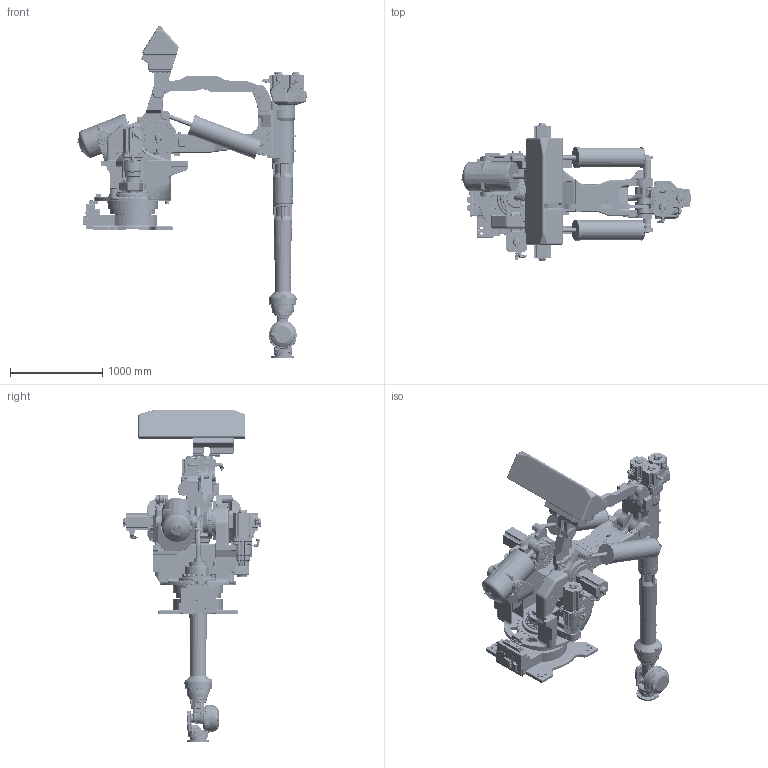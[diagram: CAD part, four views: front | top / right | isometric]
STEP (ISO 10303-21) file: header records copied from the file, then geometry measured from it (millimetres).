
FILE_DESCRIPTION((''),'2;1');
FILE_NAME('000_GP400R_ASM','2018-03-15T',('Miyoshi_Nozomi'),('YASKAWA ELECTRIC CORPORATION'),'PRO/ENGINEER BY PARAMETRIC TECHNOLOGY CORPORATION, 2014000','PRO/ENGINEER BY PARAMETRIC TECHNOLOGY CORPORATION, 2014000','');
FILE_SCHEMA(('CONFIG_CONTROL_DESIGN'));
Products named in the file (16): BASE_AXIS; S_AXIS; L_AXIS; U_AXIS; R_AXIS; B_AXIS; T_AXIS; BALANCER1_AXIS; BALANCER2_AXIS; BALANCER3-1_AXIS; BALANCER3-2_AXIS; BALANCER4-1_AXIS; BALANCER4-2_AXIS; LINKA_AXIS; LINKB_AXIS; 000_GP400R_ASM
Assembly tree (15 placements, depth 2):
  000_GP400R_ASM
    BASE_AXIS
    S_AXIS
    L_AXIS
    U_AXIS
    R_AXIS
    B_AXIS
    T_AXIS
    BALANCER1_AXIS
    BALANCER2_AXIS
    BALANCER3-1_AXIS
    BALANCER3-2_AXIS
    BALANCER4-1_AXIS
    BALANCER4-2_AXIS
    LINKA_AXIS
    LINKB_AXIS
Bounding box: 2490 x 1506 x 3601.71 mm (x, y, z)
Volume: 798826983.9 mm3; surface area: 22688031.1 mm2
Topology: 15 solids, 53 shells, 15402 faces, 36969 edges, 22802 vertices
Faces by surface type: cylinder 5961, plane 4570, bspline 1845, cone 1593, torus 1174, sphere 259
Entity records: 647565 total; most frequent: CARTESIAN_POINT 293638, DIRECTION 75726, ORIENTED_EDGE 73666, EDGE_CURVE 36875, AXIS2_PLACEMENT_3D 30865, VERTEX_POINT 22800, CIRCLE 17271, EDGE_LOOP 16851
